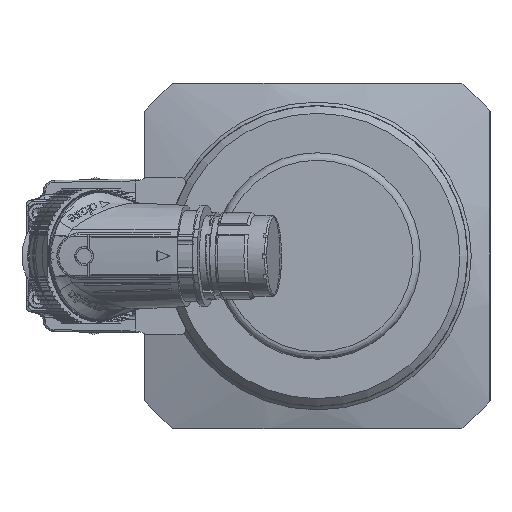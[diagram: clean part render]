
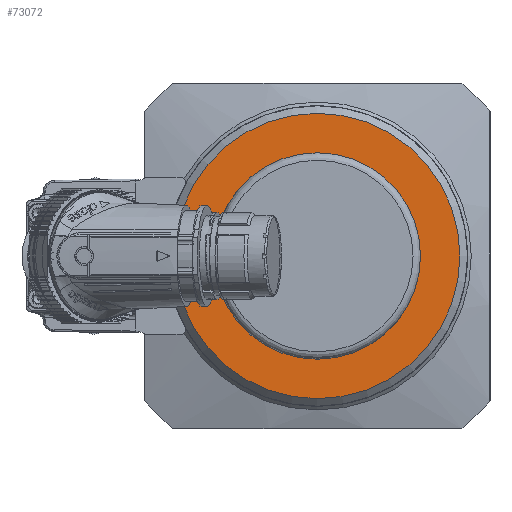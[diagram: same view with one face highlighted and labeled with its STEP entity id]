
A CAD part, left-side view. The second image highlights one B-rep face of the part: STEP entity #73072.
In plain terms, the highlighted planar face has unit normal (-1, 0, 0).
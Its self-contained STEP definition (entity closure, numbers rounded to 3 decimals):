
#32 = EDGE_CURVE ( 'NONE', #18161, #18161, #62694, .T. ) ;
#1350 = EDGE_LOOP ( 'NONE', ( #92545 ) ) ;
#4047 = AXIS2_PLACEMENT_3D ( 'NONE', #57625, #35357, #88005 ) ;
#8408 = CARTESIAN_POINT ( 'NONE',  ( -445.9, 0., 0. ) ) ;
#9041 = VERTEX_POINT ( 'NONE', #42299 ) ;
#15295 = EDGE_LOOP ( 'NONE', ( #40315 ) ) ;
#16029 = DIRECTION ( 'NONE',  ( 0., 0., -1. ) ) ;
#18161 = VERTEX_POINT ( 'NONE', #77203 ) ;
#18617 = EDGE_CURVE ( 'NONE', #9041, #9041, #84039, .T. ) ;
#34111 = DIRECTION ( 'NONE',  ( -1., 0., 0. ) ) ;
#35357 = DIRECTION ( 'NONE',  ( -1., 0., 0. ) ) ;
#40315 = ORIENTED_EDGE ( 'NONE', *, *, #32, .T. ) ;
#42299 = CARTESIAN_POINT ( 'NONE',  ( -445.9, 0., 37.999 ) ) ;
#43023 = AXIS2_PLACEMENT_3D ( 'NONE', #79143, #34111, #86722 ) ;
#57625 = CARTESIAN_POINT ( 'NONE',  ( -445.9, 27.5, 0. ) ) ;
#60801 = AXIS2_PLACEMENT_3D ( 'NONE', #8408, #60923, #16029 ) ;
#60923 = DIRECTION ( 'NONE',  ( 1., 0., 0. ) ) ;
#62694 = CIRCLE ( 'NONE', #60801, 27.5 ) ;
#73072 = ADVANCED_FACE ( 'NONE', ( #95125, #96616 ), #80414, .T. ) ;
#77203 = CARTESIAN_POINT ( 'NONE',  ( -445.9, 0., -27.5 ) ) ;
#79143 = CARTESIAN_POINT ( 'NONE',  ( -445.9, 0., 0. ) ) ;
#80414 = PLANE ( 'NONE',  #4047 ) ;
#84039 = CIRCLE ( 'NONE', #43023, 37.999 ) ;
#86722 = DIRECTION ( 'NONE',  ( 0., 0., 1. ) ) ;
#88005 = DIRECTION ( 'NONE',  ( 0., 0., 1. ) ) ;
#92545 = ORIENTED_EDGE ( 'NONE', *, *, #18617, .T. ) ;
#95125 = FACE_OUTER_BOUND ( 'NONE', #1350, .T. ) ;
#96616 = FACE_BOUND ( 'NONE', #15295, .T. ) ;
